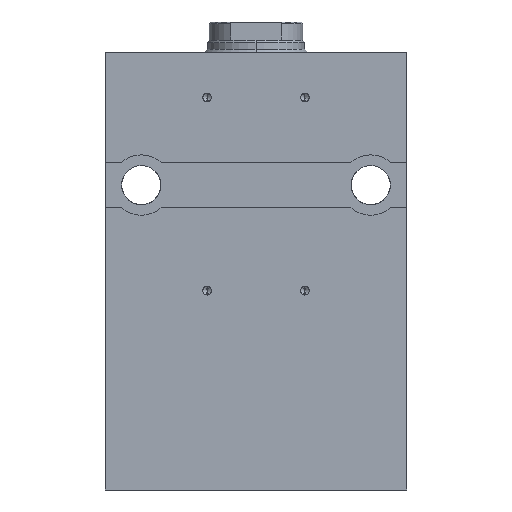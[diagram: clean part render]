
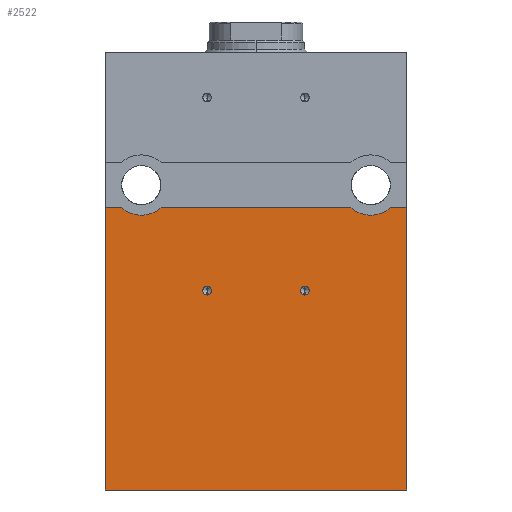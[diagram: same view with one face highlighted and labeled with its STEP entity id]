
A CAD part, left-side view. The second image highlights one B-rep face of the part: STEP entity #2522.
In plain terms, the highlighted planar face has unit normal (-1, 0, 0).
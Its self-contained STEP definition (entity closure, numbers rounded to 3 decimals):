
#65 = EDGE_CURVE ( 'NONE', #1103, #1383, #1269, .T. ) ;
#110 = AXIS2_PLACEMENT_3D ( 'NONE', #4410, #2875, #3501 ) ;
#112 = DIRECTION ( 'NONE',  ( 0., -1., 0. ) ) ;
#263 = DIRECTION ( 'NONE',  ( 0., 0., 1. ) ) ;
#312 = VECTOR ( 'NONE', #1248, 1000. ) ;
#319 = LINE ( 'NONE', #5053, #3010 ) ;
#359 = VERTEX_POINT ( 'NONE', #6411 ) ;
#388 = AXIS2_PLACEMENT_3D ( 'NONE', #6602, #6074, #2430 ) ;
#683 = LINE ( 'NONE', #4396, #312 ) ;
#685 = EDGE_CURVE ( 'NONE', #3942, #359, #6817, .T. ) ;
#707 = EDGE_LOOP ( 'NONE', ( #3086, #5175, #6689, #3930, #751, #2144, #1646, #5872 ) ) ;
#751 = ORIENTED_EDGE ( 'NONE', *, *, #1761, .F. ) ;
#832 = AXIS2_PLACEMENT_3D ( 'NONE', #2059, #5747, #5386 ) ;
#909 = VERTEX_POINT ( 'NONE', #2388 ) ;
#1028 = DIRECTION ( 'NONE',  ( -1., 0., 0. ) ) ;
#1036 = EDGE_CURVE ( 'NONE', #2878, #3503, #1039, .T. ) ;
#1039 = LINE ( 'NONE', #4141, #1415 ) ;
#1103 = VERTEX_POINT ( 'NONE', #6312 ) ;
#1143 = DIRECTION ( 'NONE',  ( 1., 0., 0. ) ) ;
#1242 = EDGE_LOOP ( 'NONE', ( #5296, #3319 ) ) ;
#1248 = DIRECTION ( 'NONE',  ( 0., -1., 0. ) ) ;
#1269 = CIRCLE ( 'NONE', #1608, 10. ) ;
#1335 = EDGE_CURVE ( 'NONE', #3110, #1383, #2834, .T. ) ;
#1383 = VERTEX_POINT ( 'NONE', #5115 ) ;
#1415 = VECTOR ( 'NONE', #3630, 1000. ) ;
#1452 = DIRECTION ( 'NONE',  ( 1., 0., 0. ) ) ;
#1608 = AXIS2_PLACEMENT_3D ( 'NONE', #5577, #1452, #2956 ) ;
#1615 = CIRCLE ( 'NONE', #388, 1.425 ) ;
#1646 = ORIENTED_EDGE ( 'NONE', *, *, #1882, .T. ) ;
#1748 = EDGE_CURVE ( 'NONE', #3110, #2555, #2199, .T. ) ;
#1761 = EDGE_CURVE ( 'NONE', #3503, #2555, #683, .T. ) ;
#1882 = EDGE_CURVE ( 'NONE', #2878, #3830, #4356, .T. ) ;
#2044 = CARTESIAN_POINT ( 'NONE',  ( -37.5, 50., -61.5 ) ) ;
#2059 = CARTESIAN_POINT ( 'NONE',  ( -37.5, 16.2, -89. ) ) ;
#2112 = FACE_BOUND ( 'NONE', #3578, .T. ) ;
#2144 = ORIENTED_EDGE ( 'NONE', *, *, #1036, .F. ) ;
#2199 = CIRCLE ( 'NONE', #6721, 10. ) ;
#2388 = CARTESIAN_POINT ( 'NONE',  ( -37.5, -50., -61.5 ) ) ;
#2430 = DIRECTION ( 'NONE',  ( 0., 0., 1. ) ) ;
#2483 = CARTESIAN_POINT ( 'NONE',  ( -37.5, -16.2, -89. ) ) ;
#2522 = ADVANCED_FACE ( 'NONE', ( #4722, #2112, #3658 ), #5785, .T. ) ;
#2555 = VERTEX_POINT ( 'NONE', #4683 ) ;
#2575 = CARTESIAN_POINT ( 'NONE',  ( -37.5, 50., -61.5 ) ) ;
#2577 = AXIS2_PLACEMENT_3D ( 'NONE', #2483, #4586, #263 ) ;
#2648 = CARTESIAN_POINT ( 'NONE',  ( -37.5, -50., -155. ) ) ;
#2649 = CARTESIAN_POINT ( 'NONE',  ( -37.5, 50., -155. ) ) ;
#2834 = LINE ( 'NONE', #4433, #5708 ) ;
#2875 = DIRECTION ( 'NONE',  ( -1., 0., 0. ) ) ;
#2878 = VERTEX_POINT ( 'NONE', #3205 ) ;
#2956 = DIRECTION ( 'NONE',  ( 0., 0., -1. ) ) ;
#2959 = VECTOR ( 'NONE', #112, 1000. ) ;
#3010 = VECTOR ( 'NONE', #6046, 1000. ) ;
#3016 = EDGE_CURVE ( 'NONE', #3864, #4232, #1615, .T. ) ;
#3086 = ORIENTED_EDGE ( 'NONE', *, *, #4650, .F. ) ;
#3110 = VERTEX_POINT ( 'NONE', #6769 ) ;
#3151 = DIRECTION ( 'NONE',  ( 0., -1., 0. ) ) ;
#3205 = CARTESIAN_POINT ( 'NONE',  ( -37.5, 50., -155. ) ) ;
#3208 = CIRCLE ( 'NONE', #110, 1.425 ) ;
#3319 = ORIENTED_EDGE ( 'NONE', *, *, #3016, .F. ) ;
#3355 = CARTESIAN_POINT ( 'NONE',  ( -37.5, 38., -54. ) ) ;
#3501 = DIRECTION ( 'NONE',  ( 0., 0., 1. ) ) ;
#3503 = VERTEX_POINT ( 'NONE', #2575 ) ;
#3578 = EDGE_LOOP ( 'NONE', ( #5123, #6673 ) ) ;
#3614 = DIRECTION ( 'NONE',  ( 0., 0., 1. ) ) ;
#3630 = DIRECTION ( 'NONE',  ( 0., 0., 1. ) ) ;
#3658 = FACE_OUTER_BOUND ( 'NONE', #707, .T. ) ;
#3830 = VERTEX_POINT ( 'NONE', #2648 ) ;
#3864 = VERTEX_POINT ( 'NONE', #5168 ) ;
#3930 = ORIENTED_EDGE ( 'NONE', *, *, #1748, .T. ) ;
#3942 = VERTEX_POINT ( 'NONE', #6484 ) ;
#4133 = AXIS2_PLACEMENT_3D ( 'NONE', #2649, #1028, #3614 ) ;
#4141 = CARTESIAN_POINT ( 'NONE',  ( -37.5, 50., -155. ) ) ;
#4154 = EDGE_CURVE ( 'NONE', #359, #3942, #3208, .T. ) ;
#4232 = VERTEX_POINT ( 'NONE', #4511 ) ;
#4356 = LINE ( 'NONE', #4906, #2959 ) ;
#4396 = CARTESIAN_POINT ( 'NONE',  ( -37.5, 50., -61.5 ) ) ;
#4410 = CARTESIAN_POINT ( 'NONE',  ( -37.5, 16.2, -89. ) ) ;
#4433 = CARTESIAN_POINT ( 'NONE',  ( -37.5, 50., -61.5 ) ) ;
#4511 = CARTESIAN_POINT ( 'NONE',  ( -37.5, -16.2, -87.575 ) ) ;
#4543 = EDGE_CURVE ( 'NONE', #3830, #909, #319, .T. ) ;
#4586 = DIRECTION ( 'NONE',  ( -1., 0., 0. ) ) ;
#4650 = EDGE_CURVE ( 'NONE', #1103, #909, #4734, .T. ) ;
#4683 = CARTESIAN_POINT ( 'NONE',  ( -37.5, 44.614, -61.5 ) ) ;
#4722 = FACE_BOUND ( 'NONE', #1242, .T. ) ;
#4734 = LINE ( 'NONE', #2044, #6652 ) ;
#4906 = CARTESIAN_POINT ( 'NONE',  ( -37.5, 50., -155. ) ) ;
#5011 = EDGE_CURVE ( 'NONE', #4232, #3864, #5544, .T. ) ;
#5053 = CARTESIAN_POINT ( 'NONE',  ( -37.5, -50., -155. ) ) ;
#5115 = CARTESIAN_POINT ( 'NONE',  ( -37.5, -31.386, -61.5 ) ) ;
#5123 = ORIENTED_EDGE ( 'NONE', *, *, #685, .F. ) ;
#5168 = CARTESIAN_POINT ( 'NONE',  ( -37.5, -16.2, -90.425 ) ) ;
#5175 = ORIENTED_EDGE ( 'NONE', *, *, #65, .T. ) ;
#5296 = ORIENTED_EDGE ( 'NONE', *, *, #5011, .F. ) ;
#5386 = DIRECTION ( 'NONE',  ( 0., 0., 1. ) ) ;
#5495 = DIRECTION ( 'NONE',  ( 0., -1., 0. ) ) ;
#5544 = CIRCLE ( 'NONE', #2577, 1.425 ) ;
#5577 = CARTESIAN_POINT ( 'NONE',  ( -37.5, -38., -54. ) ) ;
#5708 = VECTOR ( 'NONE', #5495, 1000. ) ;
#5747 = DIRECTION ( 'NONE',  ( -1., 0., 0. ) ) ;
#5785 = PLANE ( 'NONE',  #4133 ) ;
#5872 = ORIENTED_EDGE ( 'NONE', *, *, #4543, .T. ) ;
#6004 = DIRECTION ( 'NONE',  ( 0., 0., -1. ) ) ;
#6046 = DIRECTION ( 'NONE',  ( 0., 0., 1. ) ) ;
#6074 = DIRECTION ( 'NONE',  ( -1., 0., 0. ) ) ;
#6312 = CARTESIAN_POINT ( 'NONE',  ( -37.5, -44.614, -61.5 ) ) ;
#6411 = CARTESIAN_POINT ( 'NONE',  ( -37.5, 16.2, -90.425 ) ) ;
#6484 = CARTESIAN_POINT ( 'NONE',  ( -37.5, 16.2, -87.575 ) ) ;
#6602 = CARTESIAN_POINT ( 'NONE',  ( -37.5, -16.2, -89. ) ) ;
#6652 = VECTOR ( 'NONE', #3151, 1000. ) ;
#6673 = ORIENTED_EDGE ( 'NONE', *, *, #4154, .F. ) ;
#6689 = ORIENTED_EDGE ( 'NONE', *, *, #1335, .F. ) ;
#6721 = AXIS2_PLACEMENT_3D ( 'NONE', #3355, #1143, #6004 ) ;
#6769 = CARTESIAN_POINT ( 'NONE',  ( -37.5, 31.386, -61.5 ) ) ;
#6817 = CIRCLE ( 'NONE', #832, 1.425 ) ;
